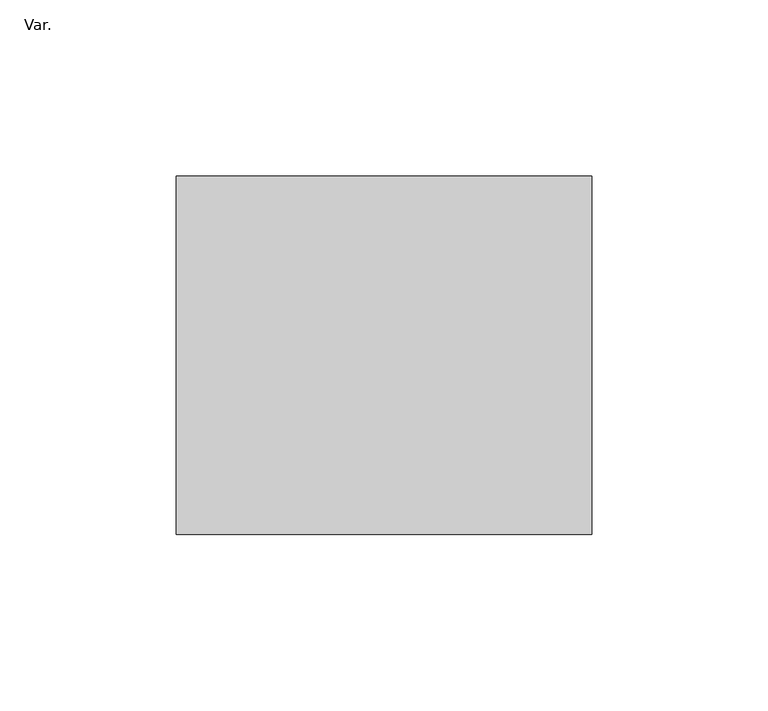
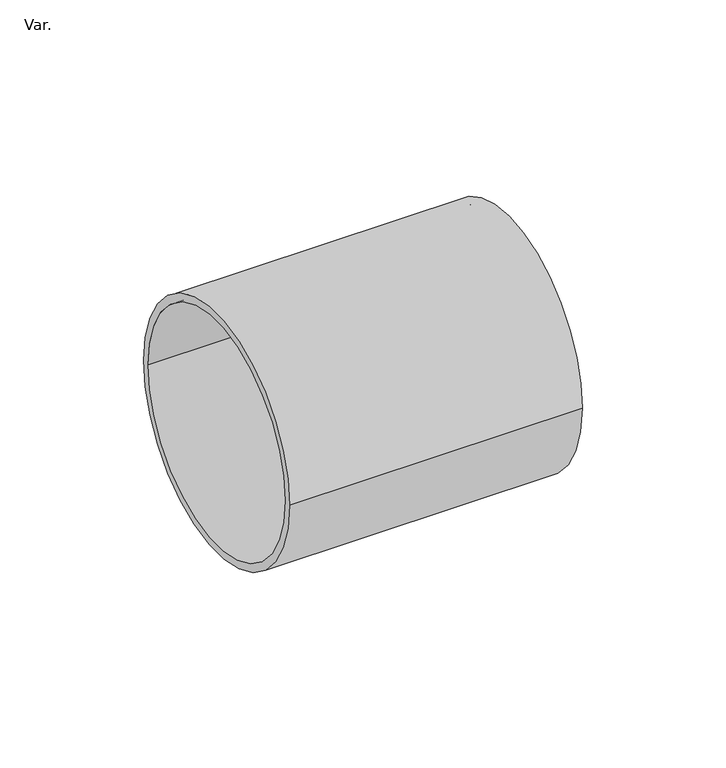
"""IFC4 building model written with IfcOpenShell, lengths in millimetres: pipe fitting geometry, AmancoWavin_ConexõesdeTubos_EsgotoZNãoUsarCaixaSifonadaSilentiumProlongamento : Var.."""

from ifc_helpers import new_model, si_unit, point, frame, origin, origin_2d, place, context, project, spatial, circle_curve, trimmed, segment, composite_curve, outline, extrude, source, transform, mapped, element, save


def var_3f5b61a8(model_context):
    return source(origin(), model_context, "Body", "SweptSolid", [
        extrude(outline(composite_curve([segment(trimmed(circle_curve(origin_2d(), 50.8), [point((-50.8, 0.0))], [point((50.8, 0.0))], False, "CARTESIAN"), True, "CONTINUOUS"), segment(trimmed(circle_curve(origin_2d(), 50.8), [point((50.8, 0.0))], [point((-50.8, 0.0))], False, "CARTESIAN"), True, "CONTINUOUS")], self_intersect=False), holes=[composite_curve([segment(trimmed(circle_curve(origin_2d(), 47.6), [point((-47.6, 0.0))], [point((47.6, 0.0))], True, "CARTESIAN"), True, "CONTINUOUS"), segment(trimmed(circle_curve(origin_2d(), 47.6), [point((47.6, 0.0))], [point((-47.6, 0.0))], True, "CARTESIAN"), True, "CONTINUOUS")], self_intersect=False)]), frame((0.0, 0.0, 0.0), z_axis=(1.0, 0.0, 0.0), x_axis=(0.0, 1.0, 0.0)), (0.0, 0.0, 1.0), 117.6526955),
    ])


if __name__ == "__main__":
    model = new_model("IFC4")
    model_context = context("Model", 3, world=origin())
    ifc_project = project(units=[si_unit("LENGTHUNIT", "METRE", prefix="MILLI")], contexts=[model_context])
    site = spatial("IfcSite", under=ifc_project)
    building = spatial("IfcBuilding", under=site)
    placement = place(None, origin())
    var_shape = var_3f5b61a8(model_context)
    element("IfcPipeFitting", 1, ObjectType="AmancoWavin_ConexõesdeTubos_EsgotoZNãoUsarCaixaSifonadaSilentiumProlongamento : Var.", at=placement, inside=building, context=model_context, shape_type="MappedRepresentation", body=[
        mapped(var_shape, transform((0.0, 0.0, 0.0), x_axis=(1.0, 0.0, 0.0), y_axis=(0.0, 1.0, 0.0), z_axis=(0.0, 0.0, 1.0))),
    ])
    save(model, "model.ifc")
